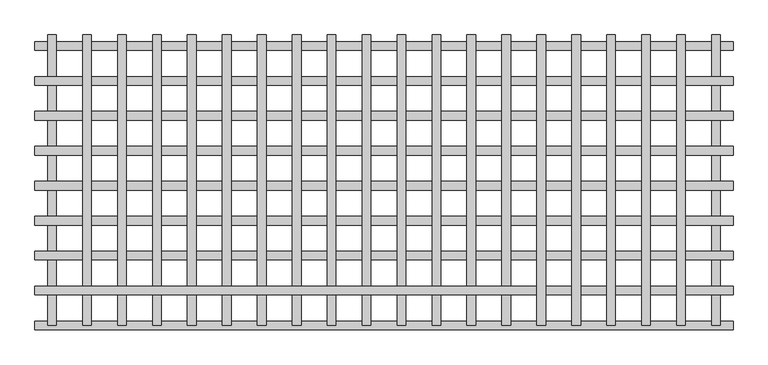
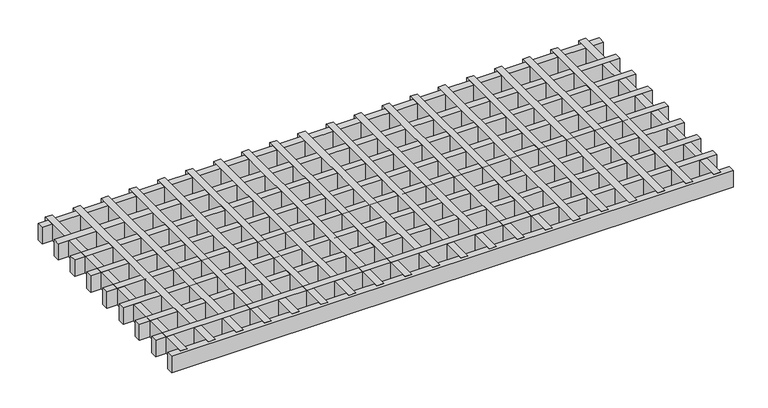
"""IFC4 building model written with IfcOpenShell, lengths in millimetres: proxy geometry, durlum_GEO_panel : durlum_GEO_15_width_cut."""

from ifc_helpers import new_model, si_unit, origin, origin_with_axes, place, context, project, spatial, polyline, outline, extrude, source, transform, mapped, element, save


def generic_models_c359a8ca(model_context):
    return source(origin(), model_context, "Body", "SweptSolid", [
        extrude(outline(polyline([(502.5, 249.5), (517.5, 249.5), (517.5, -249.5), (502.5, -249.5), (502.5, 249.5)])), origin_with_axes(), (0.0, 0.0, 1.0), 37.0),
        extrude(outline(polyline([(442.5, 249.5), (457.5, 249.5), (457.5, -249.5), (442.5, -249.5), (442.5, 249.5)])), origin_with_axes(), (0.0, 0.0, 1.0), 37.0),
        extrude(outline(polyline([(382.5, 249.5), (397.5, 249.5), (397.5, -249.5), (382.5, -249.5), (382.5, 249.5)])), origin_with_axes(), (0.0, 0.0, 1.0), 37.0),
        extrude(outline(polyline([(322.5, 249.5), (337.5, 249.5), (337.5, -249.5), (322.5, -249.5), (322.5, 249.5)])), origin_with_axes(), (0.0, 0.0, 1.0), 37.0),
        extrude(outline(polyline([(262.5, 249.5), (277.5, 249.5), (277.5, -249.5), (262.5, -249.5), (262.5, 249.5)])), origin_with_axes(), (0.0, 0.0, 1.0), 37.0),
        extrude(outline(polyline([(599.5, -182.0), (599.5, -197.0), (-599.5, -197.0), (-599.5, -182.0), (599.5, -182.0)])), origin_with_axes(), (0.0, 0.0, 1.0), 37.0),
        extrude(outline(polyline([(202.5, 249.5), (217.5, 249.5), (217.5, -249.5), (202.5, -249.5), (202.5, 249.5)])), origin_with_axes(), (0.0, 0.0, 1.0), 37.0),
        extrude(outline(polyline([(142.5, 249.5), (157.5, 249.5), (157.5, -249.5), (142.5, -249.5), (142.5, 249.5)])), origin_with_axes(), (0.0, 0.0, 1.0), 37.0),
        extrude(outline(polyline([(82.5, 249.5), (97.5, 249.5), (97.5, -249.5), (82.5, -249.5), (82.5, 249.5)])), origin_with_axes(), (0.0, 0.0, 1.0), 37.0),
        extrude(outline(polyline([(22.5, 249.5), (37.5, 249.5), (37.5, -249.5), (22.5, -249.5), (22.5, 249.5)])), origin_with_axes(), (0.0, 0.0, 1.0), 37.0),
        extrude(outline(polyline([(-37.5, 249.5), (-22.5, 249.5), (-22.5, -249.5), (-37.5, -249.5), (-37.5, 249.5)])), origin_with_axes(), (0.0, 0.0, 1.0), 37.0),
        extrude(outline(polyline([(-97.5, 249.5), (-82.5, 249.5), (-82.5, -249.5), (-97.5, -249.5), (-97.5, 249.5)])), origin_with_axes(), (0.0, 0.0, 1.0), 37.0),
        extrude(outline(polyline([(-157.5, 249.5), (-142.5, 249.5), (-142.5, -249.5), (-157.5, -249.5), (-157.5, 249.5)])), origin_with_axes(), (0.0, 0.0, 1.0), 37.0),
        extrude(outline(polyline([(-217.5, 249.5), (-202.5, 249.5), (-202.5, -249.5), (-217.5, -249.5), (-217.5, 249.5)])), origin_with_axes(), (0.0, 0.0, 1.0), 37.0),
        extrude(outline(polyline([(-277.5, 249.5), (-262.5, 249.5), (-262.5, -249.5), (-277.5, -249.5), (-277.5, 249.5)])), origin_with_axes(), (0.0, 0.0, 1.0), 37.0),
        extrude(outline(polyline([(-337.5, 249.5), (-322.5, 249.5), (-322.5, -249.5), (-337.5, -249.5), (-337.5, 249.5)])), origin_with_axes(), (0.0, 0.0, 1.0), 37.0),
        extrude(outline(polyline([(-397.5, 249.5), (-382.5, 249.5), (-382.5, -249.5), (-397.5, -249.5), (-397.5, 249.5)])), origin_with_axes(), (0.0, 0.0, 1.0), 37.0),
        extrude(outline(polyline([(-457.5, 249.5), (-442.5, 249.5), (-442.5, -249.5), (-457.5, -249.5), (-457.5, 249.5)])), origin_with_axes(), (0.0, 0.0, 1.0), 37.0),
        extrude(outline(polyline([(-517.5, 249.5), (-502.5, 249.5), (-502.5, -249.5), (-517.5, -249.5), (-517.5, 249.5)])), origin_with_axes(), (0.0, 0.0, 1.0), 37.0),
        extrude(outline(polyline([(599.5, -122.0), (599.5, -137.0), (-599.5, -137.0), (-599.5, -122.0), (599.5, -122.0)])), origin_with_axes(), (0.0, 0.0, 1.0), 37.0),
        extrude(outline(polyline([(599.5, -62.0), (599.5, -77.0), (-599.5, -77.0), (-599.5, -62.0), (599.5, -62.0)])), origin_with_axes(), (0.0, 0.0, 1.0), 37.0),
        extrude(outline(polyline([(599.5, -2.0), (599.5, -17.0), (-599.5, -17.0), (-599.5, -2.0), (599.5, -2.0)])), origin_with_axes(), (0.0, 0.0, 1.0), 37.0),
        extrude(outline(polyline([(599.5, 58.0), (599.5, 43.0), (-599.5, 43.0), (-599.5, 58.0), (599.5, 58.0)])), origin_with_axes(), (0.0, 0.0, 1.0), 37.0),
        extrude(outline(polyline([(599.5, 118.0), (599.5, 103.0), (-599.5, 103.0), (-599.5, 118.0), (599.5, 118.0)])), origin_with_axes(), (0.0, 0.0, 1.0), 37.0),
        extrude(outline(polyline([(599.5, 178.0), (599.5, 163.0), (-599.5, 163.0), (-599.5, 178.0), (599.5, 178.0)])), origin_with_axes(), (0.0, 0.0, 1.0), 37.0),
        extrude(outline(polyline([(562.5, 249.5), (577.5, 249.5), (577.5, -249.5), (562.5, -249.5), (562.5, 249.5)])), origin_with_axes(), (0.0, 0.0, 1.0), 37.0),
        extrude(outline(polyline([(-577.5, 249.5), (-562.5, 249.5), (-562.5, -249.5), (-577.5, -249.5), (-577.5, 249.5)])), origin_with_axes(), (0.0, 0.0, 1.0), 37.0),
        extrude(outline(polyline([(599.5, -242.0), (599.5, -257.0), (-599.5, -257.0), (-599.5, -242.0), (599.5, -242.0)])), origin_with_axes(), (0.0, 0.0, 1.0), 37.0),
        extrude(outline(polyline([(599.5, 238.0), (599.5, 223.0), (-599.5, 223.0), (-599.5, 238.0), (599.5, 238.0)])), origin_with_axes(), (0.0, 0.0, 1.0), 37.0),
    ])


if __name__ == "__main__":
    model = new_model("IFC4")
    model_context = context("Model", 3, world=origin())
    ifc_project = project(units=[si_unit("LENGTHUNIT", "METRE", prefix="MILLI")], contexts=[model_context])
    site = spatial("IfcSite", under=ifc_project)
    building = spatial("IfcBuilding", under=site)
    placement = place(None, origin())
    generic_models_shape = generic_models_c359a8ca(model_context)
    element("IfcBuildingElementProxy", 1, Name="durlum_GEO_panel : durlum_GEO_15_width_cut", ObjectType="durlum_GEO_panel : durlum_GEO_15_width_cut", at=placement, inside=building, context=model_context, shape_type="MappedRepresentation", body=[
        mapped(generic_models_shape, transform((0.0, 0.0, 0.0), x_axis=(1.0, 0.0, 0.0), y_axis=(0.0, 1.0, 0.0), z_axis=(0.0, 0.0, 1.0))),
    ])
    save(model, "model.ifc")
